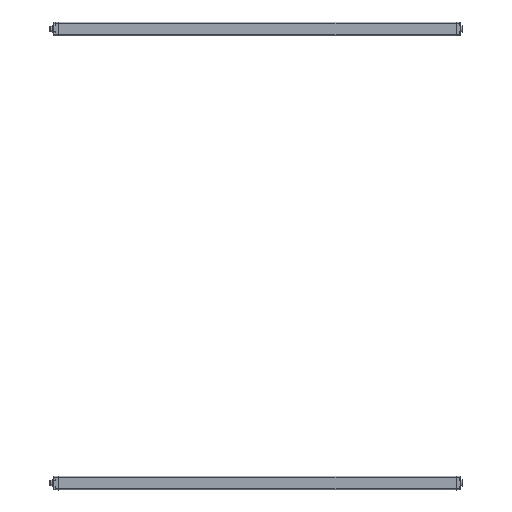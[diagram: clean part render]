
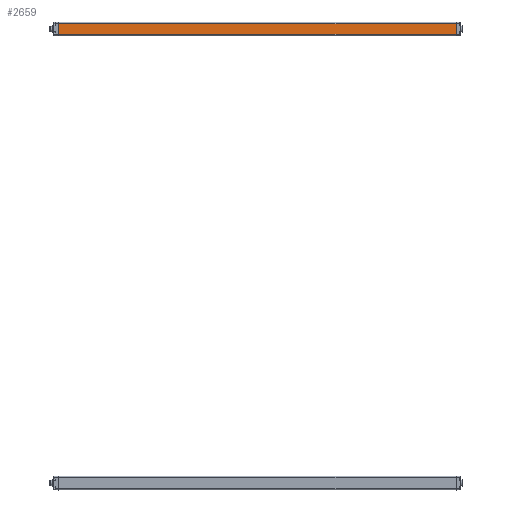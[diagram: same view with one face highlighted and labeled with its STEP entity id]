
A CAD part, front view. The second image highlights one B-rep face of the part: STEP entity #2659.
In plain terms, the highlighted planar face has unit normal (0, -1, 0).
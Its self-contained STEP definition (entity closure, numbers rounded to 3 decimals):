
#154=DIRECTION('',(0.,0.,-1.));
#155=VECTOR('',#154,24.);
#156=CARTESIAN_POINT('',(0.,-15.15,12.));
#157=LINE('',#156,#155);
#412=DIRECTION('',(0.,0.,-1.));
#413=VECTOR('',#412,24.);
#414=CARTESIAN_POINT('',(900.,-15.15,12.));
#415=LINE('',#414,#413);
#880=DIRECTION('',(1.,0.,0.));
#881=VECTOR('',#880,900.);
#882=CARTESIAN_POINT('',(0.,-15.15,12.));
#883=LINE('',#882,#881);
#884=DIRECTION('',(1.,0.,0.));
#885=VECTOR('',#884,900.);
#886=CARTESIAN_POINT('',(0.,-15.15,-12.));
#887=LINE('',#886,#885);
#1298=CARTESIAN_POINT('',(0.,-15.15,12.));
#1299=CARTESIAN_POINT('',(900.,-15.15,12.));
#1300=VERTEX_POINT('',#1298);
#1301=VERTEX_POINT('',#1299);
#1310=CARTESIAN_POINT('',(0.,-15.15,-12.));
#1311=CARTESIAN_POINT('',(900.,-15.15,-12.));
#1312=VERTEX_POINT('',#1310);
#1313=VERTEX_POINT('',#1311);
#2646=CARTESIAN_POINT('',(0.,-15.15,15.65));
#2647=DIRECTION('',(0.,-1.,0.));
#2648=DIRECTION('',(0.,0.,-1.));
#2649=AXIS2_PLACEMENT_3D('',#2646,#2647,#2648);
#2650=PLANE('',#2649);
#2652=ORIENTED_EDGE('',*,*,#2651,.T.);
#2653=ORIENTED_EDGE('',*,*,#1938,.T.);
#2655=ORIENTED_EDGE('',*,*,#2654,.F.);
#2656=ORIENTED_EDGE('',*,*,#1671,.F.);
#2657=EDGE_LOOP('',(#2652,#2653,#2655,#2656));
#2658=FACE_OUTER_BOUND('',#2657,.F.);
#2659=ADVANCED_FACE('',(#2658),#2650,.T.);
#1671=EDGE_CURVE('',#1300,#1312,#157,.T.);
#1938=EDGE_CURVE('',#1301,#1313,#415,.T.);
#2651=EDGE_CURVE('',#1300,#1301,#883,.T.);
#2654=EDGE_CURVE('',#1312,#1313,#887,.T.);
